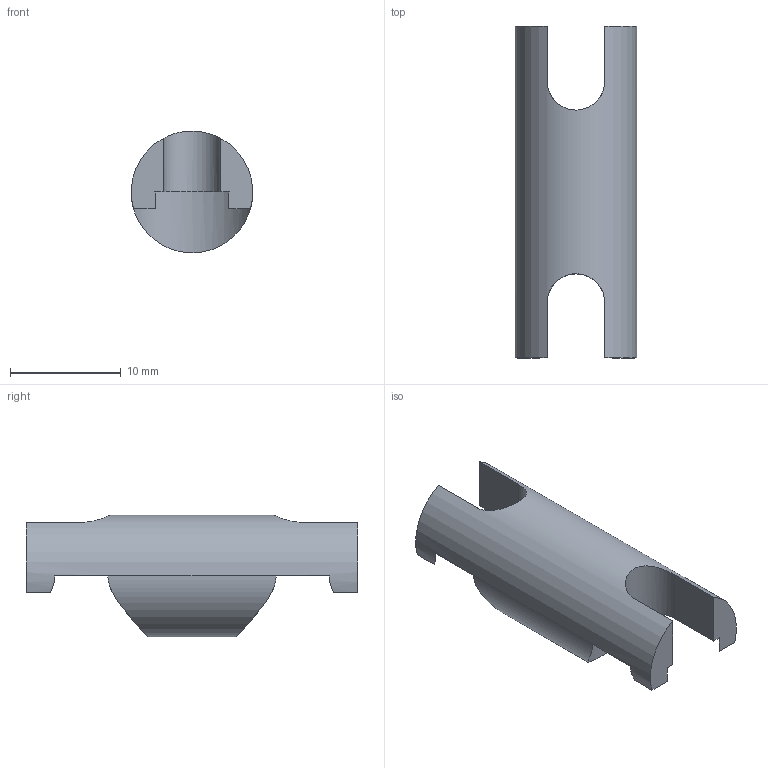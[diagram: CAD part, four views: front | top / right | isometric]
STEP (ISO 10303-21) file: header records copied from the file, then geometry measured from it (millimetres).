
FILE_DESCRIPTION((''),'2;1');
FILE_NAME('SP030151130','2002-12-27T',('Lipro doo'),('Lipro d.o.o.'),'PRO/ENGINEER BY PARAMETRIC TECHNOLOGY CORPORATION, 2001150','PRO/ENGINEER BY PARAMETRIC TECHNOLOGY CORPORATION, 2001150','');
FILE_SCHEMA(('CONFIG_CONTROL_DESIGN'));
Length unit declared in the file: millimetre
Products named in the file (1): SP030151130
Bounding box: 11 x 30 x 11 mm (x, y, z)
Volume: 1498.9 mm3; surface area: 1160.9 mm2
Topology: 1 solids, 1 shells, 24 faces, 62 edges, 40 vertices
Faces by surface type: plane 14, cylinder 10
Entity records: 900 total; most frequent: CARTESIAN_POINT 274, ORIENTED_EDGE 124, DIRECTION 118, EDGE_CURVE 62, AXIS2_PLACEMENT_3D 40, VERTEX_POINT 40, VECTOR 38, LINE 38
